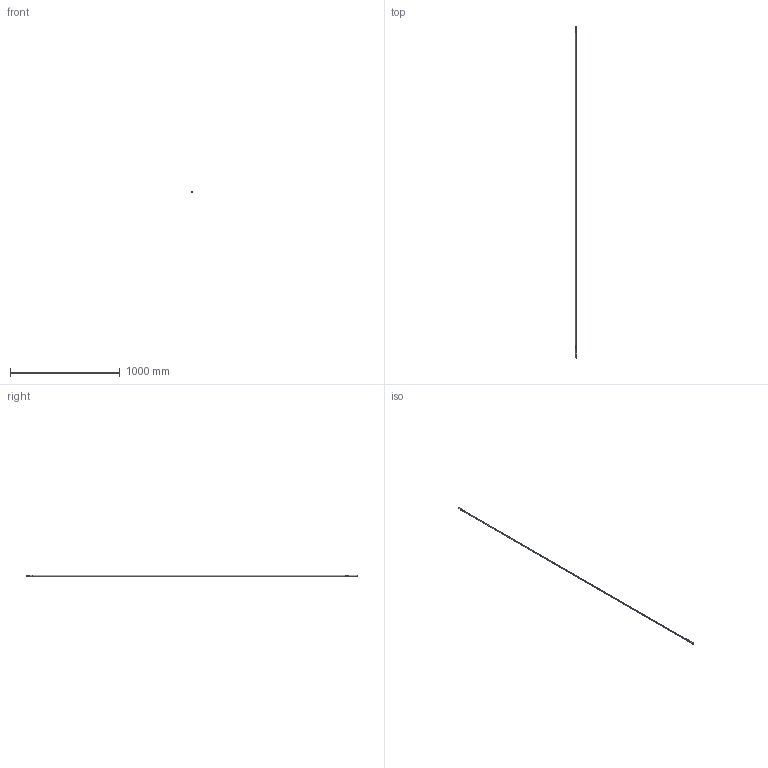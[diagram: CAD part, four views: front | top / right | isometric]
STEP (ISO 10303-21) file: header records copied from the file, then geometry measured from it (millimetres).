
FILE_DESCRIPTION (( 'STEP AP214' ), '1' );
FILE_NAME ('TPL-H-013.STEP', '2024-07-11T04:24:22', ( '' ), ( '' ), 'SwSTEP 2.0', 'SolidWorks 2023', '' );
FILE_SCHEMA (( 'AUTOMOTIVE_DESIGN' ));
Length unit declared in the file: millimetre
Products named in the file (5): Copy of LKC-576 Bolt adaptor - simplified^Hollow rod with bolt and adaptor; TPL-H-013; Copy of LKC-532 Rod connector - simplified^Hollow rod with bolt and adaptor; Copy of LKC-540 Transmission rod aluminium system TPLGen2^Hollow rod with bolt and adaptor_2885mm; Copy of LKC-569 Bolt single flat 12.0mm dia 10.0mm AF - simplified^Hollow rod with bolt and adaptor
Assembly tree (4 placements, depth 2):
  TPL-H-013
    Copy of LKC-532 Rod connector - simplified^Hollow rod with bolt and adaptor
    Copy of LKC-540 Transmission rod aluminium system TPLGen2^Hollow rod with bolt and adaptor_2885mm
    Copy of LKC-576 Bolt adaptor - simplified^Hollow rod with bolt and adaptor
    Copy of LKC-569 Bolt single flat 12.0mm dia 10.0mm AF - simplified^Hollow rod with bolt and adaptor
Bounding box: 12 x 3021 x 12 mm (x, y, z)
Volume: 154124.3 mm3; surface area: 193826.6 mm2
Topology: 4 solids, 4 shells, 98 faces, 234 edges, 139 vertices
Faces by surface type: cylinder 40, cone 30, plane 24, torus 2, sphere 2
Entity records: 3085 total; most frequent: CARTESIAN_POINT 693, DIRECTION 513, ORIENTED_EDGE 436, EDGE_CURVE 218, AXIS2_PLACEMENT_3D 206, VERTEX_POINT 138, EDGE_LOOP 110, VECTOR 101
